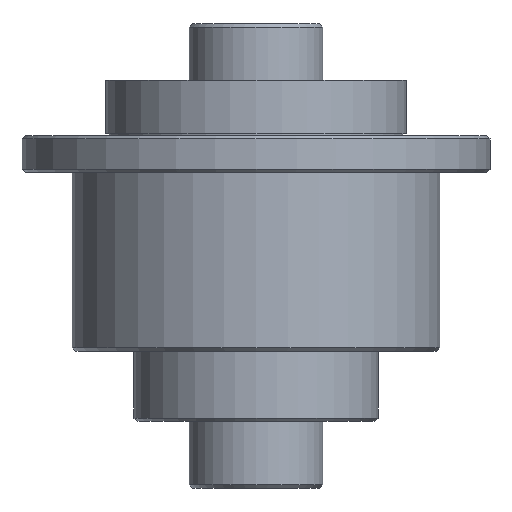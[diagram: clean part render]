
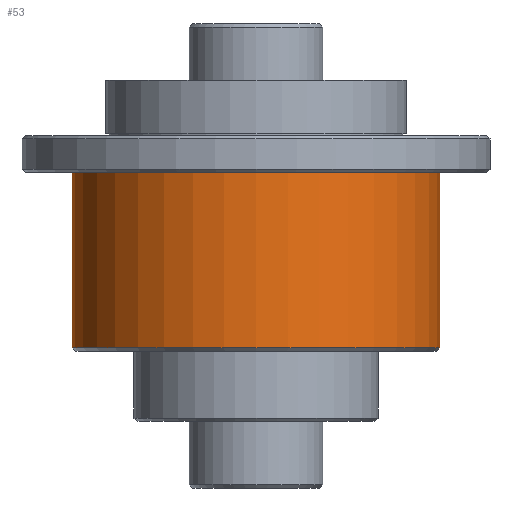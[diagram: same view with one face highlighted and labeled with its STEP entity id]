
A CAD part, front view. The second image highlights one B-rep face of the part: STEP entity #53.
In plain terms, the highlighted cylindrical face has radius 55 mm (diameter 110 mm), a partial arc.
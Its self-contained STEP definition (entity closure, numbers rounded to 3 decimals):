
#8 = ORIENTED_EDGE ( 'NONE', *, *, #603, .F. ) ;
#10 = DIRECTION ( 'NONE',  ( 1., 0., 0. ) ) ;
#53 = ADVANCED_FACE ( 'NONE', ( #655 ), #2060, .T. ) ;
#205 = DIRECTION ( 'NONE',  ( 0., 0., 1. ) ) ;
#297 = DIRECTION ( 'NONE',  ( 0., 0., 1. ) ) ;
#491 = VERTEX_POINT ( 'NONE', #1556 ) ;
#587 = VERTEX_POINT ( 'NONE', #828 ) ;
#603 = EDGE_CURVE ( 'NONE', #491, #902, #903, .T. ) ;
#655 = FACE_OUTER_BOUND ( 'NONE', #843, .T. ) ;
#790 = CARTESIAN_POINT ( 'NONE',  ( 0., 0., -76.999 ) ) ;
#828 = CARTESIAN_POINT ( 'NONE',  ( -55., 0., -76.999 ) ) ;
#833 = EDGE_CURVE ( 'NONE', #587, #491, #1845, .T. ) ;
#843 = EDGE_LOOP ( 'NONE', ( #2252, #925, #1363, #8 ) ) ;
#902 = VERTEX_POINT ( 'NONE', #933 ) ;
#903 = CIRCLE ( 'NONE', #2065, 55. ) ;
#919 = VERTEX_POINT ( 'NONE', #1111 ) ;
#925 = ORIENTED_EDGE ( 'NONE', *, *, #2261, .T. ) ;
#933 = CARTESIAN_POINT ( 'NONE',  ( 55., 0., -24.5 ) ) ;
#969 = DIRECTION ( 'NONE',  ( 1., 0., 0. ) ) ;
#998 = DIRECTION ( 'NONE',  ( 0., 0., 1. ) ) ;
#1076 = CARTESIAN_POINT ( 'NONE',  ( -55., 0., 7. ) ) ;
#1111 = CARTESIAN_POINT ( 'NONE',  ( 55., 0., -76.999 ) ) ;
#1147 = EDGE_CURVE ( 'NONE', #919, #902, #2212, .T. ) ;
#1175 = CARTESIAN_POINT ( 'NONE',  ( 55., 0., 7. ) ) ;
#1224 = VECTOR ( 'NONE', #998, 1000. ) ;
#1280 = CARTESIAN_POINT ( 'NONE',  ( 0., 0., 7. ) ) ;
#1351 = CARTESIAN_POINT ( 'NONE',  ( 0., 0., -24.5 ) ) ;
#1363 = ORIENTED_EDGE ( 'NONE', *, *, #1147, .T. ) ;
#1520 = DIRECTION ( 'NONE',  ( 1., 0., 0. ) ) ;
#1556 = CARTESIAN_POINT ( 'NONE',  ( -55., 0., -24.5 ) ) ;
#1709 = CIRCLE ( 'NONE', #1758, 55. ) ;
#1737 = VECTOR ( 'NONE', #2127, 1000. ) ;
#1758 = AXIS2_PLACEMENT_3D ( 'NONE', #790, #2005, #969 ) ;
#1827 = AXIS2_PLACEMENT_3D ( 'NONE', #1280, #205, #10 ) ;
#1845 = LINE ( 'NONE', #1076, #1737 ) ;
#2005 = DIRECTION ( 'NONE',  ( 0., 0., 1. ) ) ;
#2060 = CYLINDRICAL_SURFACE ( 'NONE', #1827, 55. ) ;
#2065 = AXIS2_PLACEMENT_3D ( 'NONE', #1351, #297, #1520 ) ;
#2127 = DIRECTION ( 'NONE',  ( 0., 0., 1. ) ) ;
#2212 = LINE ( 'NONE', #1175, #1224 ) ;
#2252 = ORIENTED_EDGE ( 'NONE', *, *, #833, .F. ) ;
#2261 = EDGE_CURVE ( 'NONE', #587, #919, #1709, .T. ) ;
